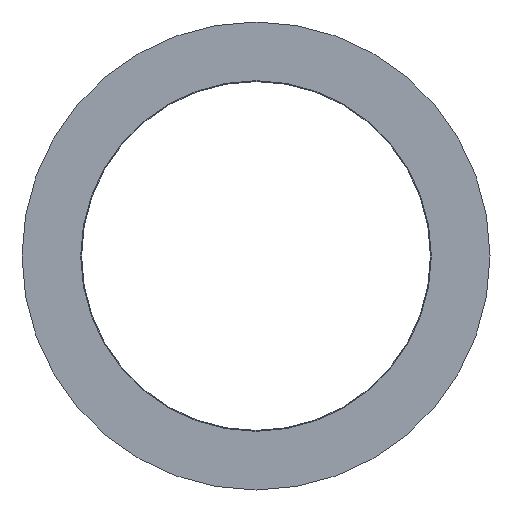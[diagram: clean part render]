
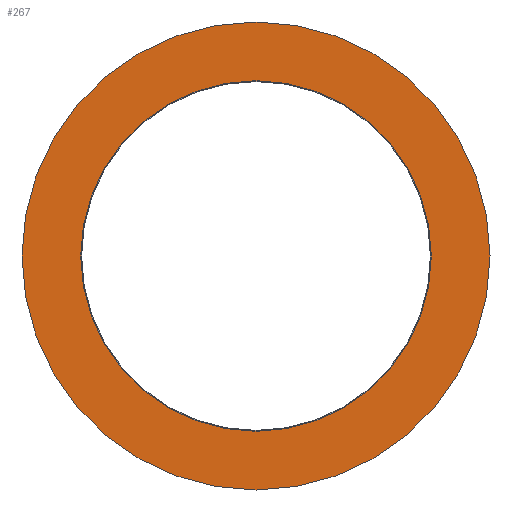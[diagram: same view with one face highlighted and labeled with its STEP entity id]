
A CAD part, left-side view. The second image highlights one B-rep face of the part: STEP entity #267.
In plain terms, the highlighted planar face has unit normal (-1, 0, 0).
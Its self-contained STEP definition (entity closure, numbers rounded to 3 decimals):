
#161=CARTESIAN_POINT('',(0.0,27.5,0.0));
#162=VERTEX_POINT('',#161);
#163=CARTESIAN_POINT('',(0.0,0.0,0.0));
#164=DIRECTION('',(1.0,0.0,0.0));
#165=DIRECTION('',(0.0,1.0,0.0));
#166=AXIS2_PLACEMENT_3D('',#163,#164,#165);
#167=CIRCLE('',#166,27.5);
#168=EDGE_CURVE('',#162,#162,#167,.T.);
#241=CARTESIAN_POINT('',(0.0,20.6,0.0));
#242=VERTEX_POINT('',#241);
#243=CARTESIAN_POINT('',(0.0,0.0,0.0));
#244=DIRECTION('',(1.0,0.0,0.0));
#245=DIRECTION('',(0.0,1.0,0.0));
#246=AXIS2_PLACEMENT_3D('',#243,#244,#245);
#247=CIRCLE('',#246,20.6);
#248=EDGE_CURVE('',#242,#242,#247,.T.);
#256=CARTESIAN_POINT('',(0.0,24.05,0.0));
#257=DIRECTION('',(-1.0,0.0,0.0));
#258=DIRECTION('',(0.0,0.0,1.0));
#259=AXIS2_PLACEMENT_3D('',#256,#257,#258);
#260=PLANE('',#259);
#261=ORIENTED_EDGE('',*,*,#168,.F.);
#262=EDGE_LOOP('',(#261));
#263=FACE_OUTER_BOUND('',#262,.T.);
#264=ORIENTED_EDGE('',*,*,#248,.T.);
#265=EDGE_LOOP('',(#264));
#266=FACE_BOUND('',#265,.T.);
#267=ADVANCED_FACE('',(#263,#266),#260,.T.);
